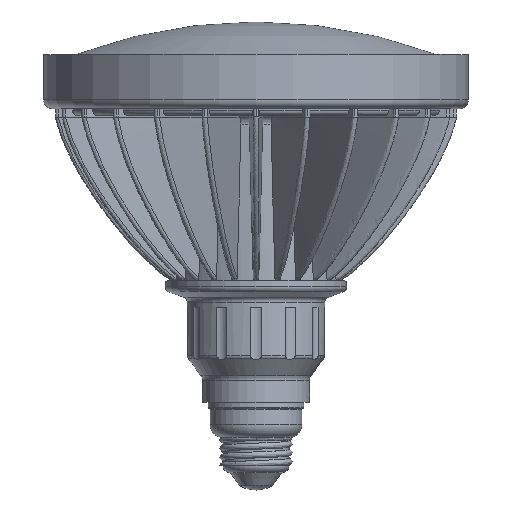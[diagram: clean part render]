
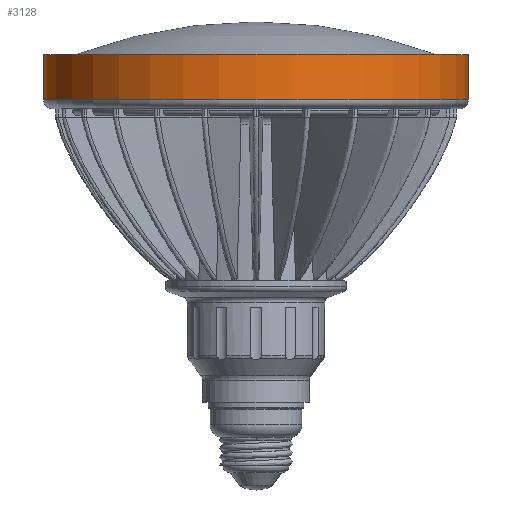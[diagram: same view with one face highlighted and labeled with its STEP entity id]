
A CAD part, top view. The second image highlights one B-rep face of the part: STEP entity #3128.
In plain terms, the highlighted cylindrical face has radius 61.976 mm (diameter 123.952 mm), a partial arc.
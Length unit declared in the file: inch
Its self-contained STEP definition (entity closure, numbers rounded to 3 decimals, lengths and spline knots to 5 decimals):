
#348 = DIRECTION ( 'NONE',  ( 0., 1., 0. ) ) ;
#1952 = CIRCLE ( 'NONE', #10654, 2.44 ) ;
#2184 = EDGE_CURVE ( 'NONE', #3377, #11796, #20838, .T. ) ;
#2522 = EDGE_LOOP ( 'NONE', ( #17617, #17723, #22848, #11351 ) ) ;
#3128 = ADVANCED_FACE ( 'NONE', ( #6455 ), #20512, .T. ) ;
#3186 = LINE ( 'NONE', #22331, #22100 ) ;
#3377 = VERTEX_POINT ( 'NONE', #22589 ) ;
#4199 = CARTESIAN_POINT ( 'NONE',  ( -2.44, 0.925, 0. ) ) ;
#4699 = AXIS2_PLACEMENT_3D ( 'NONE', #16169, #5192, #14337 ) ;
#5192 = DIRECTION ( 'NONE',  ( 0., 1., 0. ) ) ;
#6455 = FACE_OUTER_BOUND ( 'NONE', #2522, .T. ) ;
#8168 = EDGE_CURVE ( 'NONE', #13631, #11796, #12401, .T. ) ;
#8352 = CARTESIAN_POINT ( 'NONE',  ( 0., 0.925, 0. ) ) ;
#9323 = CARTESIAN_POINT ( 'NONE',  ( 0., 0.405, 0. ) ) ;
#10212 = DIRECTION ( 'NONE',  ( -1., 0., 0. ) ) ;
#10654 = AXIS2_PLACEMENT_3D ( 'NONE', #9323, #22148, #11189 ) ;
#11189 = DIRECTION ( 'NONE',  ( -1., 0., 0. ) ) ;
#11351 = ORIENTED_EDGE ( 'NONE', *, *, #17896, .F. ) ;
#11796 = VERTEX_POINT ( 'NONE', #19826 ) ;
#12401 = CIRCLE ( 'NONE', #16206, 2.44 ) ;
#13631 = VERTEX_POINT ( 'NONE', #4199 ) ;
#14157 = CARTESIAN_POINT ( 'NONE',  ( -2.44, 0.405, 0. ) ) ;
#14337 = DIRECTION ( 'NONE',  ( -1., 0., 0. ) ) ;
#15957 = VERTEX_POINT ( 'NONE', #14157 ) ;
#15979 = VECTOR ( 'NONE', #21993, 39.37008 ) ;
#16169 = CARTESIAN_POINT ( 'NONE',  ( 0., 0.925, 0. ) ) ;
#16206 = AXIS2_PLACEMENT_3D ( 'NONE', #8352, #21178, #10212 ) ;
#16464 = CARTESIAN_POINT ( 'NONE',  ( 2.44, 0.925, 0. ) ) ;
#17617 = ORIENTED_EDGE ( 'NONE', *, *, #18349, .T. ) ;
#17723 = ORIENTED_EDGE ( 'NONE', *, *, #2184, .T. ) ;
#17896 = EDGE_CURVE ( 'NONE', #15957, #13631, #3186, .T. ) ;
#18349 = EDGE_CURVE ( 'NONE', #15957, #3377, #1952, .T. ) ;
#19826 = CARTESIAN_POINT ( 'NONE',  ( 2.44, 0.925, 0. ) ) ;
#20512 = CYLINDRICAL_SURFACE ( 'NONE', #4699, 2.44 ) ;
#20838 = LINE ( 'NONE', #16464, #15979 ) ;
#21178 = DIRECTION ( 'NONE',  ( 0., 1., 0. ) ) ;
#21993 = DIRECTION ( 'NONE',  ( 0., 1., 0. ) ) ;
#22100 = VECTOR ( 'NONE', #348, 39.37008 ) ;
#22148 = DIRECTION ( 'NONE',  ( 0., 1., 0. ) ) ;
#22331 = CARTESIAN_POINT ( 'NONE',  ( -2.44, 0.925, 0. ) ) ;
#22589 = CARTESIAN_POINT ( 'NONE',  ( 2.44, 0.405, 0. ) ) ;
#22848 = ORIENTED_EDGE ( 'NONE', *, *, #8168, .F. ) ;
